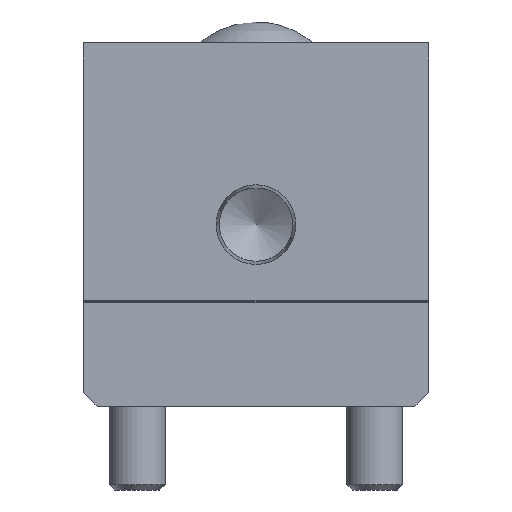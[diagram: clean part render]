
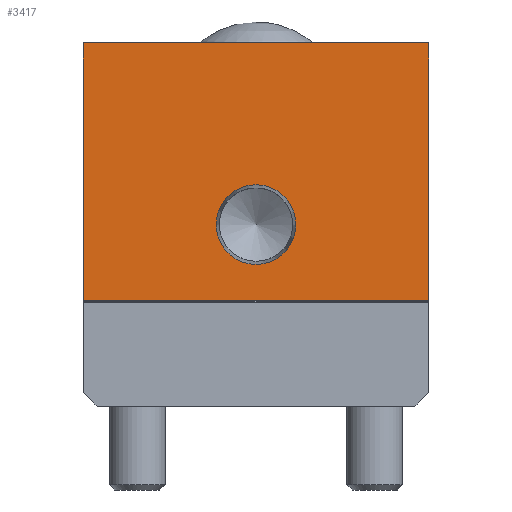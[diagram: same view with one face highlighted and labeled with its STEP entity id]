
A CAD part, front view. The second image highlights one B-rep face of the part: STEP entity #3417.
In plain terms, the highlighted planar face has unit normal (0, -1, 0).
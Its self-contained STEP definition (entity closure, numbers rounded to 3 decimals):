
#166=FACE_BOUND('',#701,.T.);
#261=CIRCLE('',#3642,5.704);
#447=FACE_OUTER_BOUND('',#700,.T.);
#700=EDGE_LOOP('',(#2443,#2444,#2445,#2446));
#701=EDGE_LOOP('',(#2447));
#1030=LINE('',#5069,#1298);
#1033=LINE('',#5074,#1301);
#1035=LINE('',#5082,#1303);
#1049=LINE('',#5118,#1317);
#1298=VECTOR('',#4099,36.9);
#1301=VECTOR('',#4104,49.5);
#1303=VECTOR('',#4112,36.9);
#1317=VECTOR('',#4156,49.5);
#1549=VERTEX_POINT('',#5066);
#1550=VERTEX_POINT('',#5068);
#1551=VERTEX_POINT('',#5072);
#1554=VERTEX_POINT('',#5080);
#1558=VERTEX_POINT('',#5094);
#1873=EDGE_CURVE('',#1550,#1549,#1030,.T.);
#1876=EDGE_CURVE('',#1549,#1551,#1033,.T.);
#1880=EDGE_CURVE('',#1554,#1551,#1035,.T.);
#1885=EDGE_CURVE('',#1558,#1558,#261,.T.);
#1898=EDGE_CURVE('',#1554,#1550,#1049,.T.);
#2443=ORIENTED_EDGE('',*,*,#1898,.T.);
#2444=ORIENTED_EDGE('',*,*,#1873,.T.);
#2445=ORIENTED_EDGE('',*,*,#1876,.T.);
#2446=ORIENTED_EDGE('',*,*,#1880,.F.);
#2447=ORIENTED_EDGE('',*,*,#1885,.T.);
#3086=PLANE('',#3675);
#3417=ADVANCED_FACE('',(#447,#166),#3086,.T.);
#3642=AXIS2_PLACEMENT_3D('',#5095,#4127,#4128);
#3675=AXIS2_PLACEMENT_3D('',#5156,#4210,#4211);
#4099=DIRECTION('',(0.,0.,1.));
#4104=DIRECTION('',(-1.,0.,0.));
#4112=DIRECTION('',(0.,0.,1.));
#4127=DIRECTION('center_axis',(0.,1.,0.));
#4128=DIRECTION('ref_axis',(1.,0.,0.));
#4156=DIRECTION('',(1.,0.,0.));
#4210=DIRECTION('center_axis',(0.,-1.,0.));
#4211=DIRECTION('ref_axis',(0.,0.,-1.));
#5066=CARTESIAN_POINT('',(24.75,0.,52.));
#5068=CARTESIAN_POINT('',(24.75,0.,15.1));
#5069=CARTESIAN_POINT('',(24.75,0.,0.));
#5072=CARTESIAN_POINT('',(-24.75,0.,52.));
#5074=CARTESIAN_POINT('',(24.75,0.,52.));
#5080=CARTESIAN_POINT('',(-24.75,0.,15.1));
#5082=CARTESIAN_POINT('',(-24.75,0.,0.));
#5094=CARTESIAN_POINT('',(5.704,0.,26.));
#5095=CARTESIAN_POINT('Origin',(0.,0.,26.));
#5118=CARTESIAN_POINT('',(24.75,0.,15.1));
#5156=CARTESIAN_POINT('Origin',(24.75,0.,0.));
